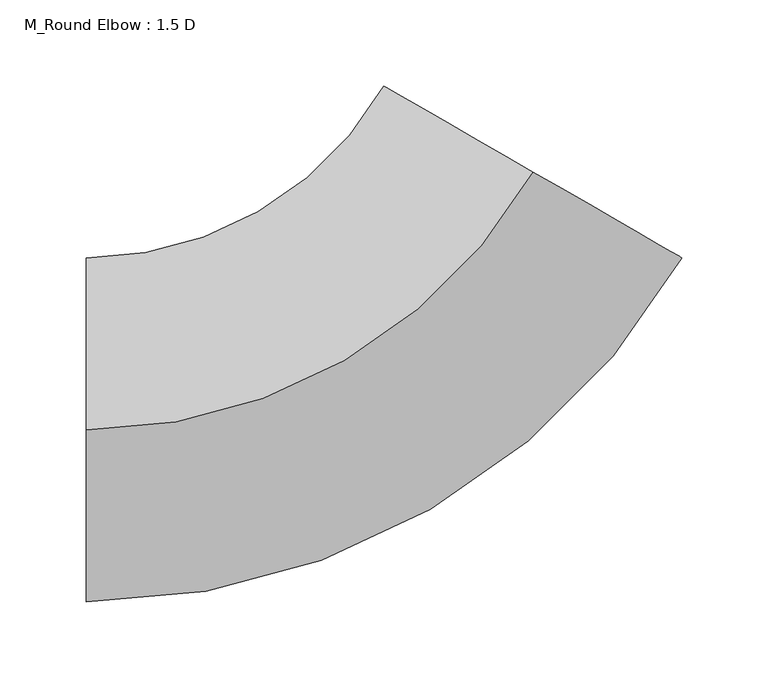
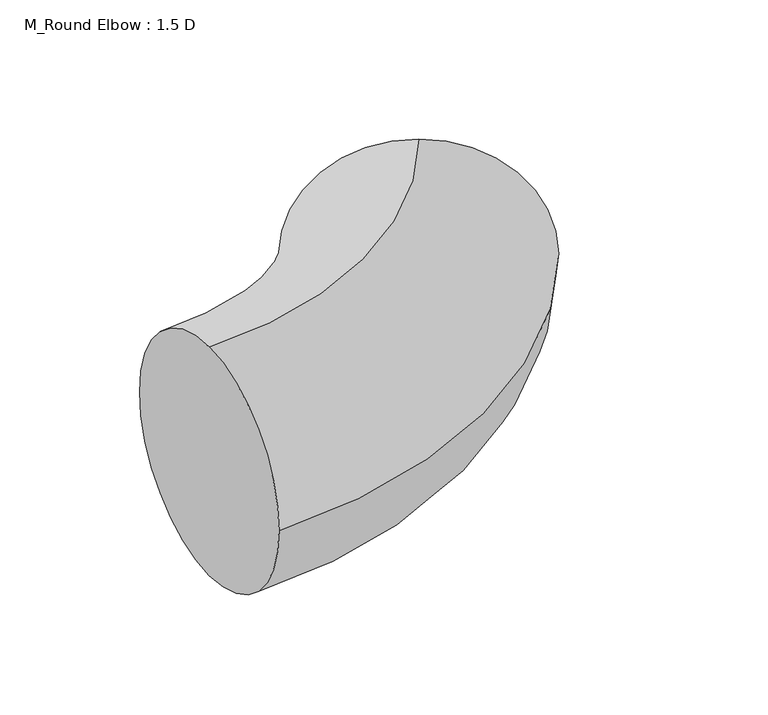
"""IFC4 building model written with IfcOpenShell, lengths in millimetres: duct fitting geometry, M_Round Elbow : 1.5 D."""

import ifcopenshell
import ifcopenshell.guid

model = None  # the IFC model being written
_history = None  # IfcOwnerHistory: only IFC2X3 demands one
_inside = {}  # id of a spatial element -> (the spatial element, [elements in it])
_under = {}  # id of a project, library or spatial element -> (it, [spatial elements below it])
_declared = {}  # id of a project -> (the project, [libraries it declares])
_typed = {}  # id of a type object -> (the type object, [elements of that type])
_made_of = {}  # id of a material, layer set ... -> (it, [elements and type objects made of it])


def new_model(schema):
    """Start an empty IFC model of exactly this schema.

    Asked for "IFC4X3", IfcOpenShell would pick the latest addendum, in which some entities
    have other attributes; the version numbers below select the first issue.
    IFC2X3 requires an IfcOwnerHistory on every rooted entity: one is made here for all.
    """
    global model, _history
    if schema == "IFC4X3":
        model = ifcopenshell.file(schema_version=(4, 3, 0, 0))
    else:
        model = ifcopenshell.file(schema=schema)
    _inside.clear()
    _under.clear()
    _declared.clear()
    _typed.clear()
    _made_of.clear()
    _history = None
    if model.schema == "IFC2X3":
        org = make("IfcOrganization", Name="unknown")
        user = make(
            "IfcPersonAndOrganization",
            ThePerson=make("IfcPerson", FamilyName="unknown"),
            TheOrganization=org,
        )
        app = make(
            "IfcApplication",
            ApplicationDeveloper=org,
            Version="unknown",
            ApplicationFullName="unknown",
            ApplicationIdentifier="unknown",
        )
        _history = make(
            "IfcOwnerHistory",
            OwningUser=user,
            OwningApplication=app,
            ChangeAction="ADDED",
            CreationDate=0,
        )
    return model


def make(cls, **values):
    """One entity of the class cls with the attributes given. An attribute that is None is left unset."""
    return model.create_entity(
        cls, **{name: value for name, value in values.items() if value is not None}
    )


def rooted(cls, **values):
    """An entity with a GlobalId (a new one), such as an element, a storey or a relation."""
    return make(cls, GlobalId=ifcopenshell.guid.new(), OwnerHistory=_history, **values)


def si_unit(unit_type, name, prefix=None):
    """IfcSIUnit, for example si_unit("LENGTHUNIT", "METRE", prefix="MILLI")."""
    return make("IfcSIUnit", UnitType=unit_type, Prefix=prefix, Name=name)


def assignment(units):
    """IfcUnitAssignment: the units of a project."""
    return None if units is None else make("IfcUnitAssignment", Units=units)


def point(xyz):
    """IfcCartesianPoint."""
    return None if xyz is None else make("IfcCartesianPoint", Coordinates=xyz)


def direction(xyz):
    """IfcDirection."""
    return None if xyz is None else make("IfcDirection", DirectionRatios=xyz)


def frame(location, z_axis=None, x_axis=None):
    """IfcAxis2Placement3D, a coordinate frame: its origin and axes. An axis left out is left unset."""
    return make(
        "IfcAxis2Placement3D",
        Location=point(location),
        Axis=direction(z_axis),
        RefDirection=direction(x_axis),
    )


def origin():
    """The frame at (0, 0, 0) with its axes left unset."""
    return frame((0.0, 0.0, 0.0))


def place(relative_to, where):
    """IfcLocalPlacement: puts the frame where relative to a parent placement (None: the world)."""
    return make(
        "IfcLocalPlacement", PlacementRelTo=relative_to, RelativePlacement=where
    )


def context(
    kind, dimensions, precision=None, world=None, true_north=None, identifier=None
):
    """IfcGeometricRepresentationContext, for example the 3D "Model" context."""
    return make(
        "IfcGeometricRepresentationContext",
        ContextIdentifier=identifier,
        ContextType=kind,
        CoordinateSpaceDimension=dimensions,
        Precision=precision,
        WorldCoordinateSystem=world,
        TrueNorth=true_north,
    )


def project(units=None, contexts=None):
    """IfcProject with its units and contexts."""
    return rooted(
        "IfcProject",
        Name="project",
        RepresentationContexts=contexts,
        UnitsInContext=assignment(units),
    )


def spatial(cls, under=None, at=None, **own):
    """A site, building, storey or space (cls), placed at a placement, below another one or the project."""
    s = rooted(cls, ObjectPlacement=at, **own)
    if under is not None:
        _under.setdefault(under.id(), (under, []))[1].append(s)
    return s


def circle_curve(where, radius):
    """IfcCircle in the frame where."""
    return make("IfcCircle", Position=where, Radius=radius)


def ellipse_curve(where, semi_axis1, semi_axis2):
    """IfcEllipse in the frame where."""
    return make(
        "IfcEllipse", Position=where, SemiAxis1=semi_axis1, SemiAxis2=semi_axis2
    )


def trimmed(basis, trim1, trim2, sense, master):
    """IfcTrimmedCurve: the piece of a basis curve between two trims."""
    return make(
        "IfcTrimmedCurve",
        BasisCurve=basis,
        Trim1=trim1,
        Trim2=trim2,
        SenseAgreement=sense,
        MasterRepresentation=master,
    )


def shape(context_of_items, identifier, shape_type, items):
    """IfcShapeRepresentation: the items that make up one representation, for example the "Body"."""
    return make(
        "IfcShapeRepresentation",
        ContextOfItems=context_of_items,
        RepresentationIdentifier=identifier,
        RepresentationType=shape_type,
        Items=items,
    )


def source(mapping_origin, context_of_items, identifier, shape_type, items):
    """IfcRepresentationMap: a shape defined once, which mapped items show again and again."""
    return make(
        "IfcRepresentationMap",
        MappingOrigin=mapping_origin,
        MappedRepresentation=shape(context_of_items, identifier, shape_type, items),
    )


def transform(
    local_origin,
    x_axis=None,
    y_axis=None,
    z_axis=None,
    scale=None,
    scale2=None,
    scale3=None,
    uniform=True,
):
    """IfcCartesianTransformationOperator3D, or its non-uniform kind. x_axis, y_axis, z_axis: its Axis1, 2, 3."""
    if uniform:
        return make(
            "IfcCartesianTransformationOperator3D",
            Axis1=direction(x_axis),
            Axis2=direction(y_axis),
            LocalOrigin=point(local_origin),
            Scale=scale,
            Axis3=direction(z_axis),
        )
    return make(
        "IfcCartesianTransformationOperator3DnonUniform",
        Axis1=direction(x_axis),
        Axis2=direction(y_axis),
        LocalOrigin=point(local_origin),
        Scale=scale,
        Axis3=direction(z_axis),
        Scale2=scale2,
        Scale3=scale3,
    )


def mapped(mapping_source, mapping_target):
    """IfcMappedItem: shows the shape of a source again, moved by a transform."""
    return make(
        "IfcMappedItem", MappingSource=mapping_source, MappingTarget=mapping_target
    )


def made_of(thing, what):
    """Note that an element or type object is made of a material, layer set ...; save() writes the relation."""
    if what is not None:
        _made_of.setdefault(what.id(), (what, []))[1].append(thing)
    return thing


def element(
    cls,
    number,
    at=None,
    inside=None,
    cuts=None,
    type_object=None,
    material=None,
    context=None,
    identifier="Body",
    shape_type=None,
    held_by="IfcProductDefinitionShape",
    body=None,
    shapes=None,
    **own,
):
    """One element of the class cls, such as IfcWall. Its Tag is "e" and its number.

    at: its placement. inside: the storey or other place that contains it. cuts: it is an
    opening in that element (IfcRelVoidsElement). A single representation is given by context,
    identifier, shape_type and body (its items); several are given by shapes. held_by: the class
    of the entity that holds the representations. save() writes the other relations.
    """
    e = rooted(cls, Tag="e%d" % number, ObjectPlacement=at, **own)
    if body is not None:
        shapes = [shape(context, identifier, shape_type, body)]
    if shapes is not None:
        e.Representation = make(held_by, Representations=shapes)
    if inside is not None:
        _inside.setdefault(inside.id(), (inside, []))[1].append(e)
    if cuts is not None:
        rooted(
            "IfcRelVoidsElement", RelatingBuildingElement=cuts, RelatedOpeningElement=e
        )
    if type_object is not None:
        _typed.setdefault(type_object.id(), (type_object, []))[1].append(e)
    return made_of(e, material)


def aggregate(whole, parts):
    """IfcRelAggregates: a whole, such as a stair, and the parts it consists of."""
    return rooted("IfcRelAggregates", RelatingObject=whole, RelatedObjects=parts)


def save(model, path):
    """Write the relations noted so far, then the file.

    IfcRelAggregates (storeys below a building ...), IfcRelContainedInSpatialStructure (elements
    in a storey), IfcRelDefinesByType, IfcRelAssociatesMaterial and IfcRelDeclares: one each for
    every whole, place, type object, material and project.
    """
    for whole, parts in _under.values():
        aggregate(whole, parts)
    for where, things in _inside.values():
        rooted(
            "IfcRelContainedInSpatialStructure",
            RelatedElements=things,
            RelatingStructure=where,
        )
    for kind, things in _typed.values():
        rooted("IfcRelDefinesByType", RelatedObjects=things, RelatingType=kind)
    for what, things in _made_of.values():
        rooted("IfcRelAssociatesMaterial", RelatedObjects=things, RelatingMaterial=what)
    for by, libraries in _declared.values():
        rooted("IfcRelDeclares", RelatingContext=by, RelatedDefinitions=libraries)
    model.write(path)


def plane_surface(at):
    """IfcPlane: the flat surface through the origin of the frame at, square to its z axis."""
    return make("IfcPlane", Position=at)


def revolved_surface(curve, axis_point, axis_direction):
    """IfcSurfaceOfRevolution: the curve turned about the line through axis_point along axis_direction."""
    return make(
        "IfcSurfaceOfRevolution",
        SweptCurve=make("IfcArbitraryOpenProfileDef", ProfileType="CURVE", Curve=curve),
        AxisPosition=make("IfcAxis1Placement", Location=point(axis_point), Axis=direction(axis_direction)),
    )


def advanced_brep(points, edges, surfaces, faces):
    """IfcAdvancedBrep: a solid bounded by faces that lie on surfaces and meet in shared edges.

    An edge is (start, end): straight between two places in points (the first is 0);
    or (start, end, curve); or (start, end, curve, False) where it runs against its curve.
    A face is (place in surfaces, loops), or (place, loops, False) where it looks against
    its surface's normal. A loop lists edges by number (the first is 1), with a minus sign
    where the edge is run from its end to its start. The first loop is the outer one.
    """
    corners = [point(p) for p in points]
    vertices = [make("IfcVertexPoint", VertexGeometry=c) for c in corners]
    made = []
    for start, end, *more in edges:
        made.append(
            make(
                "IfcEdgeCurve",
                EdgeStart=vertices[start],
                EdgeEnd=vertices[end],
                EdgeGeometry=more[0] if more else make("IfcPolyline", Points=[corners[start], corners[end]]),
                SameSense=more[1] if len(more) > 1 else True,
            )
        )
    hull = []
    for where, loops, *sense in faces:
        bounds = []
        for j, loop in enumerate(loops):
            ring = [make("IfcOrientedEdge", EdgeElement=made[abs(k) - 1], Orientation=k > 0) for k in loop]
            bounds.append(
                make(
                    "IfcFaceOuterBound" if j == 0 else "IfcFaceBound",
                    Bound=make("IfcEdgeLoop", EdgeList=ring),
                    Orientation=True,
                )
            )
        hull.append(make("IfcAdvancedFace", Bounds=bounds, FaceSurface=surfaces[where], SameSense=sense[0] if sense else True))
    return make("IfcAdvancedBrep", Outer=make("IfcClosedShell", CfsFaces=hull))


def m_round_elbow_1_5_d_0fd14416(model_context):
    return source(origin(), model_context, "Body", "AdvancedBrep", [
        advanced_brep(
        [(-173.2050808, 0.0, 100.0), (-173.2050808, 100.0, 0.0), (-173.2050808, 0.0, -100.0), (-173.2050808, -100.0, 0.0), (86.6025404, 150.0, 100.0), (173.2050808, 100.0, 0.0), (86.6025404, 150.0, -100.0), (0.0, 200.0, 0.0)],
        [
            (0, 1, circle_curve(frame((-173.2050808, 0.0, 0.0), z_axis=(-1.0, 0.0, 0.0), x_axis=(0.0, 1.0, 0.0)), 100.0)),
            (1, 2, circle_curve(frame((-173.2050808, 0.0, 0.0), z_axis=(-1.0, 0.0, 0.0), x_axis=(0.0, 1.0, 0.0)), 100.0)),
            (2, 3, circle_curve(frame((-173.2050808, 0.0, 0.0), z_axis=(-1.0, 0.0, 0.0), x_axis=(0.0, 1.0, 0.0)), 100.0)),
            (3, 0, circle_curve(frame((-173.2050808, 0.0, 0.0), z_axis=(-1.0, 0.0, 0.0), x_axis=(0.0, 1.0, 0.0)), 100.0)),
            (4, 5, circle_curve(frame((86.6025404, 150.0, 0.0), z_axis=(0.4999999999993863, 0.866025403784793, 0.0), x_axis=(-0.866025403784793, 0.4999999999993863, 0.0)), 100.0)),
            (5, 6, circle_curve(frame((86.6025404, 150.0, 0.0), z_axis=(0.4999999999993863, 0.866025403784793, 0.0), x_axis=(-0.866025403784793, 0.4999999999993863, 0.0)), 100.0)),
            (6, 7, circle_curve(frame((86.6025404, 150.0, 0.0), z_axis=(0.4999999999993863, 0.866025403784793, 0.0), x_axis=(-0.866025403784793, 0.4999999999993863, 0.0)), 100.0)),
            (7, 4, circle_curve(frame((86.6025404, 150.0, 0.0), z_axis=(0.4999999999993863, 0.866025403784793, 0.0), x_axis=(-0.866025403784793, 0.4999999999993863, 0.0)), 100.0)),
            (7, 1, circle_curve(frame((-173.2050808, 300.0, 0.0), z_axis=(0.0, 0.0, -1.0), x_axis=(0.0, -1.0, 0.0)), 200.0)),
            (0, 4, circle_curve(frame((-173.2050808, 300.0, 100.0), z_axis=(0.0, 0.0, 1.0), x_axis=(0.0, -1.0, 0.0)), 300.0)),
            (6, 2, circle_curve(frame((-173.2050808, 300.0, -100.0), z_axis=(0.0, 0.0, -1.0), x_axis=(0.0, -1.0, 0.0)), 300.0)),
            (5, 3, circle_curve(frame((-173.2050808, 300.0, 0.0), z_axis=(0.0, 0.0, -1.0), x_axis=(0.0, -1.0, 0.0)), 400.0)),
        ],
        [
            plane_surface(frame((-173.2050808, 0.0, 0.0), z_axis=(-1.0, 0.0, 0.0), x_axis=(0.0, 0.0, 1.0))),
            plane_surface(frame((86.6025404, 150.0, 0.0), z_axis=(0.4999999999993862, 0.8660254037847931, 0.0), x_axis=(0.0, 0.0, 1.0))),
            revolved_surface(trimmed(ellipse_curve(frame((-173.2050808, 0.0, 0.0), z_axis=(-1.0, 0.0, 0.0), x_axis=(0.0, 1.0, 0.0)), 100.0, 100.0), [point((-173.2050808, 0.0, 100.0))], [point((-173.2050808, 100.0, 0.0))], True, "CARTESIAN"), (-173.2050808, 300.0, 0.0), (0.0, 0.0, 1.0)),
            revolved_surface(trimmed(ellipse_curve(frame((-173.2050808, 0.0, 0.0), z_axis=(-1.0, 0.0, 0.0), x_axis=(0.0, 1.0, 0.0)), 100.0, 100.0), [point((-173.2050808, 100.0, 0.0))], [point((-173.2050808, 0.0, -100.0))], True, "CARTESIAN"), (-173.2050808, 300.0, 0.0), (0.0, 0.0, 1.0)),
            revolved_surface(trimmed(ellipse_curve(frame((-173.2050808, 0.0, 0.0), z_axis=(-1.0, 0.0, 0.0), x_axis=(0.0, 1.0, 0.0)), 100.0, 100.0), [point((-173.2050808, 0.0, -100.0))], [point((-173.2050808, -100.0, 0.0))], True, "CARTESIAN"), (-173.2050808, 300.0, 0.0), (0.0, 0.0, 1.0)),
            revolved_surface(trimmed(ellipse_curve(frame((-173.2050808, 0.0, 0.0), z_axis=(-1.0, 0.0, 0.0), x_axis=(0.0, 1.0, 0.0)), 100.0, 100.0), [point((-173.2050808, -100.0, 0.0))], [point((-173.2050808, 0.0, 100.0))], True, "CARTESIAN"), (-173.2050808, 300.0, 0.0), (0.0, 0.0, 1.0)),
        ],
        [
            (0, [[1, 2, 3, 4]]),
            (1, [[5, 6, 7, 8]]),
            (2, [[9, -1, 10, -8]]),
            (3, [[11, -2, -9, -7]]),
            (4, [[12, -3, -11, -6]]),
            (5, [[-10, -4, -12, -5]]),
        ],
    ),
        advanced_brep(
        [(-173.2050808, 0.0, 100.0), (-173.2050808, 100.0, 0.0), (-173.2050808, 0.0, -100.0), (-173.2050808, -100.0, 0.0), (86.6025404, 150.0, 100.0), (173.2050808, 100.0, 0.0), (86.6025404, 150.0, -100.0), (0.0, 200.0, 0.0)],
        [
            (0, 1, circle_curve(frame((-173.2050808, 0.0, 0.0), z_axis=(-1.0, 0.0, 0.0), x_axis=(0.0, 1.0, 0.0)), 100.0)),
            (1, 2, circle_curve(frame((-173.2050808, 0.0, 0.0), z_axis=(-1.0, 0.0, 0.0), x_axis=(0.0, 1.0, 0.0)), 100.0)),
            (2, 3, circle_curve(frame((-173.2050808, 0.0, 0.0), z_axis=(-1.0, 0.0, 0.0), x_axis=(0.0, 1.0, 0.0)), 100.0)),
            (3, 0, circle_curve(frame((-173.2050808, 0.0, 0.0), z_axis=(-1.0, 0.0, 0.0), x_axis=(0.0, 1.0, 0.0)), 100.0)),
            (4, 5, circle_curve(frame((86.6025404, 150.0, 0.0), z_axis=(0.4999999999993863, 0.866025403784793, 0.0), x_axis=(-0.866025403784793, 0.4999999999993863, 0.0)), 100.0)),
            (5, 6, circle_curve(frame((86.6025404, 150.0, 0.0), z_axis=(0.4999999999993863, 0.866025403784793, 0.0), x_axis=(-0.866025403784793, 0.4999999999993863, 0.0)), 100.0)),
            (6, 7, circle_curve(frame((86.6025404, 150.0, 0.0), z_axis=(0.4999999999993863, 0.866025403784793, 0.0), x_axis=(-0.866025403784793, 0.4999999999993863, 0.0)), 100.0)),
            (7, 4, circle_curve(frame((86.6025404, 150.0, 0.0), z_axis=(0.4999999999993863, 0.866025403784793, 0.0), x_axis=(-0.866025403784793, 0.4999999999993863, 0.0)), 100.0)),
            (7, 1, circle_curve(frame((-173.2050808, 300.0, 0.0), z_axis=(0.0, 0.0, -1.0), x_axis=(0.0, -1.0, 0.0)), 200.0)),
            (0, 4, circle_curve(frame((-173.2050808, 300.0, 100.0), z_axis=(0.0, 0.0, 1.0), x_axis=(0.0, -1.0, 0.0)), 300.0)),
            (6, 2, circle_curve(frame((-173.2050808, 300.0, -100.0), z_axis=(0.0, 0.0, -1.0), x_axis=(0.0, -1.0, 0.0)), 300.0)),
            (5, 3, circle_curve(frame((-173.2050808, 300.0, 0.0), z_axis=(0.0, 0.0, -1.0), x_axis=(0.0, -1.0, 0.0)), 400.0)),
        ],
        [
            plane_surface(frame((-173.2050808, 0.0, 0.0), z_axis=(-1.0, 0.0, 0.0), x_axis=(0.0, 0.0, 1.0))),
            plane_surface(frame((86.6025404, 150.0, 0.0), z_axis=(0.4999999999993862, 0.8660254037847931, 0.0), x_axis=(0.0, 0.0, 1.0))),
            revolved_surface(trimmed(ellipse_curve(frame((-173.2050808, 0.0, 0.0), z_axis=(-1.0, 0.0, 0.0), x_axis=(0.0, 1.0, 0.0)), 100.0, 100.0), [point((-173.2050808, 0.0, 100.0))], [point((-173.2050808, 100.0, 0.0))], True, "CARTESIAN"), (-173.2050808, 300.0, 0.0), (0.0, 0.0, 1.0)),
            revolved_surface(trimmed(ellipse_curve(frame((-173.2050808, 0.0, 0.0), z_axis=(-1.0, 0.0, 0.0), x_axis=(0.0, 1.0, 0.0)), 100.0, 100.0), [point((-173.2050808, 100.0, 0.0))], [point((-173.2050808, 0.0, -100.0))], True, "CARTESIAN"), (-173.2050808, 300.0, 0.0), (0.0, 0.0, 1.0)),
            revolved_surface(trimmed(ellipse_curve(frame((-173.2050808, 0.0, 0.0), z_axis=(-1.0, 0.0, 0.0), x_axis=(0.0, 1.0, 0.0)), 100.0, 100.0), [point((-173.2050808, 0.0, -100.0))], [point((-173.2050808, -100.0, 0.0))], True, "CARTESIAN"), (-173.2050808, 300.0, 0.0), (0.0, 0.0, 1.0)),
            revolved_surface(trimmed(ellipse_curve(frame((-173.2050808, 0.0, 0.0), z_axis=(-1.0, 0.0, 0.0), x_axis=(0.0, 1.0, 0.0)), 100.0, 100.0), [point((-173.2050808, -100.0, 0.0))], [point((-173.2050808, 0.0, 100.0))], True, "CARTESIAN"), (-173.2050808, 300.0, 0.0), (0.0, 0.0, 1.0)),
        ],
        [
            (0, [[1, 2, 3, 4]]),
            (1, [[5, 6, 7, 8]]),
            (2, [[9, -1, 10, -8]]),
            (3, [[11, -2, -9, -7]]),
            (4, [[12, -3, -11, -6]]),
            (5, [[-10, -4, -12, -5]]),
        ],
    ),
        advanced_brep(
        [(-173.2050808, 0.0, 100.0), (-173.2050808, 100.0, 0.0), (-173.2050808, 0.0, -100.0), (-173.2050808, -100.0, 0.0), (86.6025404, 150.0, 100.0), (173.2050808, 100.0, 0.0), (86.6025404, 150.0, -100.0), (0.0, 200.0, 0.0)],
        [
            (0, 1, circle_curve(frame((-173.2050808, 0.0, 0.0), z_axis=(-1.0, 0.0, 0.0), x_axis=(0.0, 1.0, 0.0)), 100.0)),
            (1, 2, circle_curve(frame((-173.2050808, 0.0, 0.0), z_axis=(-1.0, 0.0, 0.0), x_axis=(0.0, 1.0, 0.0)), 100.0)),
            (2, 3, circle_curve(frame((-173.2050808, 0.0, 0.0), z_axis=(-1.0, 0.0, 0.0), x_axis=(0.0, 1.0, 0.0)), 100.0)),
            (3, 0, circle_curve(frame((-173.2050808, 0.0, 0.0), z_axis=(-1.0, 0.0, 0.0), x_axis=(0.0, 1.0, 0.0)), 100.0)),
            (4, 5, circle_curve(frame((86.6025404, 150.0, 0.0), z_axis=(0.4999999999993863, 0.866025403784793, 0.0), x_axis=(-0.866025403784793, 0.4999999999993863, 0.0)), 100.0)),
            (5, 6, circle_curve(frame((86.6025404, 150.0, 0.0), z_axis=(0.4999999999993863, 0.866025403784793, 0.0), x_axis=(-0.866025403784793, 0.4999999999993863, 0.0)), 100.0)),
            (6, 7, circle_curve(frame((86.6025404, 150.0, 0.0), z_axis=(0.4999999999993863, 0.866025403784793, 0.0), x_axis=(-0.866025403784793, 0.4999999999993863, 0.0)), 100.0)),
            (7, 4, circle_curve(frame((86.6025404, 150.0, 0.0), z_axis=(0.4999999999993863, 0.866025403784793, 0.0), x_axis=(-0.866025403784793, 0.4999999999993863, 0.0)), 100.0)),
            (7, 1, circle_curve(frame((-173.2050808, 300.0, 0.0), z_axis=(0.0, 0.0, -1.0), x_axis=(0.0, -1.0, 0.0)), 200.0)),
            (0, 4, circle_curve(frame((-173.2050808, 300.0, 100.0), z_axis=(0.0, 0.0, 1.0), x_axis=(0.0, -1.0, 0.0)), 300.0)),
            (6, 2, circle_curve(frame((-173.2050808, 300.0, -100.0), z_axis=(0.0, 0.0, -1.0), x_axis=(0.0, -1.0, 0.0)), 300.0)),
            (5, 3, circle_curve(frame((-173.2050808, 300.0, 0.0), z_axis=(0.0, 0.0, -1.0), x_axis=(0.0, -1.0, 0.0)), 400.0)),
        ],
        [
            plane_surface(frame((-173.2050808, 0.0, 0.0), z_axis=(-1.0, 0.0, 0.0), x_axis=(0.0, 0.0, 1.0))),
            plane_surface(frame((86.6025404, 150.0, 0.0), z_axis=(0.4999999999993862, 0.8660254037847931, 0.0), x_axis=(0.0, 0.0, 1.0))),
            revolved_surface(trimmed(ellipse_curve(frame((-173.2050808, 0.0, 0.0), z_axis=(-1.0, 0.0, 0.0), x_axis=(0.0, 1.0, 0.0)), 100.0, 100.0), [point((-173.2050808, 0.0, 100.0))], [point((-173.2050808, 100.0, 0.0))], True, "CARTESIAN"), (-173.2050808, 300.0, 0.0), (0.0, 0.0, 1.0)),
            revolved_surface(trimmed(ellipse_curve(frame((-173.2050808, 0.0, 0.0), z_axis=(-1.0, 0.0, 0.0), x_axis=(0.0, 1.0, 0.0)), 100.0, 100.0), [point((-173.2050808, 100.0, 0.0))], [point((-173.2050808, 0.0, -100.0))], True, "CARTESIAN"), (-173.2050808, 300.0, 0.0), (0.0, 0.0, 1.0)),
            revolved_surface(trimmed(ellipse_curve(frame((-173.2050808, 0.0, 0.0), z_axis=(-1.0, 0.0, 0.0), x_axis=(0.0, 1.0, 0.0)), 100.0, 100.0), [point((-173.2050808, 0.0, -100.0))], [point((-173.2050808, -100.0, 0.0))], True, "CARTESIAN"), (-173.2050808, 300.0, 0.0), (0.0, 0.0, 1.0)),
            revolved_surface(trimmed(ellipse_curve(frame((-173.2050808, 0.0, 0.0), z_axis=(-1.0, 0.0, 0.0), x_axis=(0.0, 1.0, 0.0)), 100.0, 100.0), [point((-173.2050808, -100.0, 0.0))], [point((-173.2050808, 0.0, 100.0))], True, "CARTESIAN"), (-173.2050808, 300.0, 0.0), (0.0, 0.0, 1.0)),
        ],
        [
            (0, [[1, 2, 3, 4]]),
            (1, [[5, 6, 7, 8]]),
            (2, [[9, -1, 10, -8]]),
            (3, [[11, -2, -9, -7]]),
            (4, [[12, -3, -11, -6]]),
            (5, [[-10, -4, -12, -5]]),
        ],
    ),
    ])


if __name__ == "__main__":
    model = new_model("IFC4")
    model_context = context("Model", 3, world=origin())
    ifc_project = project(units=[si_unit("LENGTHUNIT", "METRE", prefix="MILLI")], contexts=[model_context])
    site = spatial("IfcSite", under=ifc_project)
    building = spatial("IfcBuilding", under=site)
    placement = place(None, origin())
    m_round_elbow_1_5_d_shape = m_round_elbow_1_5_d_0fd14416(model_context)
    element("IfcDuctFitting", 1, ObjectType="M_Round Elbow : 1.5 D", at=placement, inside=building, context=model_context, shape_type="MappedRepresentation", body=[
        mapped(m_round_elbow_1_5_d_shape, transform((0.0, 0.0, 0.0), x_axis=(1.0, 0.0, 0.0), y_axis=(0.0, 1.0, 0.0), z_axis=(0.0, 0.0, 1.0))),
    ])
    save(model, "model.ifc")
